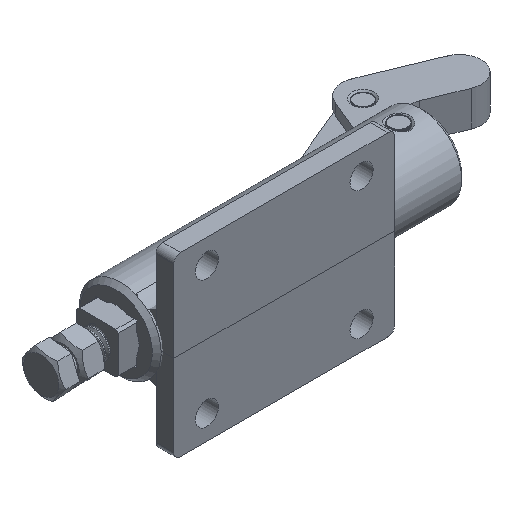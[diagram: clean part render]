
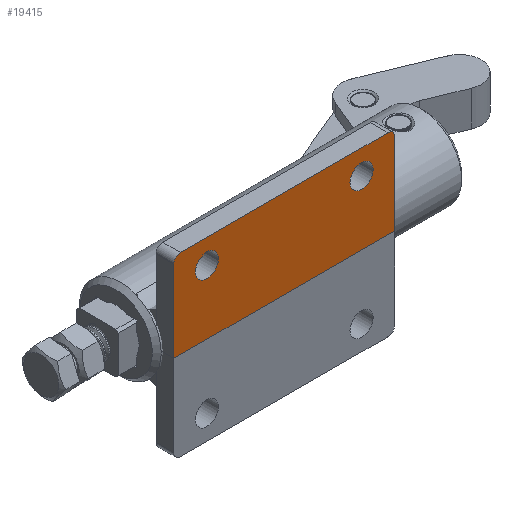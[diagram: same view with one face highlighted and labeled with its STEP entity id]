
A CAD part, isometric view. The second image highlights one B-rep face of the part: STEP entity #19415.
In plain terms, the highlighted planar face has unit normal (0, -1, 0).
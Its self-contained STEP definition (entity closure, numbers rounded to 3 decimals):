
#446=FACE_BOUND('',#2593,.T.);
#447=FACE_BOUND('',#2594,.T.);
#556=PLANE('',#20640);
#1550=FACE_OUTER_BOUND('',#2592,.T.);
#2592=EDGE_LOOP('',(#14027,#14028,#14029,#14030,#14031,#14032));
#2593=EDGE_LOOP('',(#14033,#14034));
#2594=EDGE_LOOP('',(#14035,#14036));
#3662=LINE('',#28900,#5763);
#3753=LINE('',#30469,#5854);
#3755=LINE('',#30473,#5856);
#3762=LINE('',#30816,#5863);
#5763=VECTOR('',#22464,1000.);
#5854=VECTOR('',#22631,1000.);
#5856=VECTOR('',#22635,1000.);
#5863=VECTOR('',#22652,1000.);
#7740=CIRCLE('',#20590,3.);
#7741=CIRCLE('',#20597,5.25);
#7742=CIRCLE('',#20598,5.25);
#7743=CIRCLE('',#20607,3.);
#7744=CIRCLE('',#20619,5.25);
#7745=CIRCLE('',#20620,5.25);
#8510=VERTEX_POINT('',#28893);
#8511=VERTEX_POINT('',#28894);
#8512=VERTEX_POINT('',#28899);
#8527=VERTEX_POINT('',#29224);
#8528=VERTEX_POINT('',#29226);
#8547=VERTEX_POINT('',#29679);
#8566=VERTEX_POINT('',#30114);
#8567=VERTEX_POINT('',#30116);
#8575=VERTEX_POINT('',#30468);
#8576=VERTEX_POINT('',#30472);
#10557=EDGE_CURVE('',#8510,#8511,#7740,.T.);
#10560=EDGE_CURVE('',#8512,#8510,#3662,.T.);
#10586=EDGE_CURVE('',#8528,#8527,#7741,.T.);
#10587=EDGE_CURVE('',#8527,#8528,#7742,.T.);
#10620=EDGE_CURVE('',#8547,#8512,#7743,.T.);
#10658=EDGE_CURVE('',#8567,#8566,#7744,.T.);
#10659=EDGE_CURVE('',#8566,#8567,#7745,.T.);
#10681=EDGE_CURVE('',#8511,#8575,#3753,.T.);
#10683=EDGE_CURVE('',#8576,#8575,#3755,.T.);
#10696=EDGE_CURVE('',#8576,#8547,#3762,.T.);
#14027=ORIENTED_EDGE('',*,*,#10696,.F.);
#14028=ORIENTED_EDGE('',*,*,#10683,.T.);
#14029=ORIENTED_EDGE('',*,*,#10681,.F.);
#14030=ORIENTED_EDGE('',*,*,#10557,.F.);
#14031=ORIENTED_EDGE('',*,*,#10560,.F.);
#14032=ORIENTED_EDGE('',*,*,#10620,.F.);
#14033=ORIENTED_EDGE('',*,*,#10658,.T.);
#14034=ORIENTED_EDGE('',*,*,#10659,.T.);
#14035=ORIENTED_EDGE('',*,*,#10586,.T.);
#14036=ORIENTED_EDGE('',*,*,#10587,.T.);
#19415=ADVANCED_FACE('',(#1550,#446,#447),#556,.F.);
#20590=AXIS2_PLACEMENT_3D('',#28895,#22458,#22459);
#20597=AXIS2_PLACEMENT_3D('',#29227,#22495,#22496);
#20598=AXIS2_PLACEMENT_3D('',#29228,#22497,#22498);
#20607=AXIS2_PLACEMENT_3D('',#29680,#22540,#22541);
#20619=AXIS2_PLACEMENT_3D('',#30117,#22594,#22595);
#20620=AXIS2_PLACEMENT_3D('',#30118,#22596,#22597);
#20640=AXIS2_PLACEMENT_3D('',#30821,#22661,#22662);
#22458=DIRECTION('center_axis',(0.,1.,0.));
#22459=DIRECTION('ref_axis',(0.,0.,1.));
#22464=DIRECTION('',(1.,0.,0.));
#22495=DIRECTION('center_axis',(0.,1.,0.));
#22496=DIRECTION('ref_axis',(0.,0.,-1.));
#22497=DIRECTION('center_axis',(0.,1.,0.));
#22498=DIRECTION('ref_axis',(0.,0.,-1.));
#22540=DIRECTION('center_axis',(0.,1.,0.));
#22541=DIRECTION('ref_axis',(0.,0.,1.));
#22594=DIRECTION('center_axis',(0.,1.,0.));
#22595=DIRECTION('ref_axis',(0.,0.,1.));
#22596=DIRECTION('center_axis',(0.,1.,0.));
#22597=DIRECTION('ref_axis',(0.,0.,1.));
#22631=DIRECTION('',(0.,0.,-1.));
#22635=DIRECTION('',(1.,0.,0.));
#22652=DIRECTION('',(0.,0.,1.));
#22661=DIRECTION('center_axis',(0.,1.,0.));
#22662=DIRECTION('ref_axis',(0.,0.,1.));
#28893=CARTESIAN_POINT('',(47.,0.,40.));
#28894=CARTESIAN_POINT('',(50.,0.,37.));
#28895=CARTESIAN_POINT('Origin',(47.,0.,37.));
#28899=CARTESIAN_POINT('',(-47.,0.,40.));
#28900=CARTESIAN_POINT('',(-47.,0.,40.));
#29224=CARTESIAN_POINT('',(-35.,0.,34.25));
#29226=CARTESIAN_POINT('',(-35.,0.,23.75));
#29227=CARTESIAN_POINT('Origin',(-35.,0.,29.));
#29228=CARTESIAN_POINT('Origin',(-35.,0.,29.));
#29679=CARTESIAN_POINT('',(-50.,0.,37.));
#29680=CARTESIAN_POINT('Origin',(-47.,0.,37.));
#30114=CARTESIAN_POINT('',(35.,0.,34.25));
#30116=CARTESIAN_POINT('',(35.,0.,23.75));
#30117=CARTESIAN_POINT('Origin',(35.,0.,29.));
#30118=CARTESIAN_POINT('Origin',(35.,0.,29.));
#30468=CARTESIAN_POINT('',(50.,0.,0.));
#30469=CARTESIAN_POINT('',(50.,0.,-37.));
#30472=CARTESIAN_POINT('',(-50.,0.,0.));
#30473=CARTESIAN_POINT('',(53.879,0.,0.));
#30816=CARTESIAN_POINT('',(-50.,0.,-37.));
#30821=CARTESIAN_POINT('Origin',(-47.,0.,-37.));
